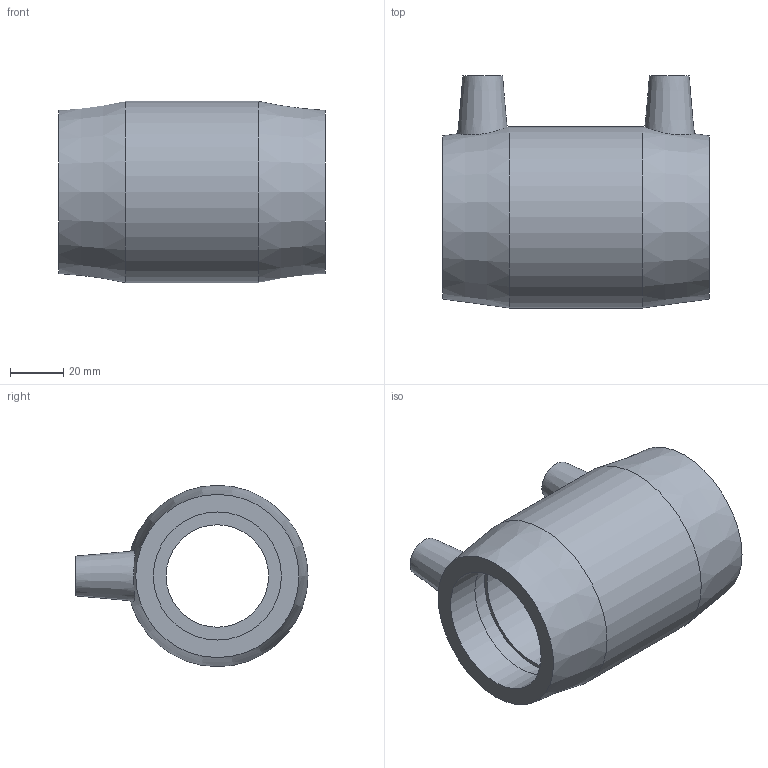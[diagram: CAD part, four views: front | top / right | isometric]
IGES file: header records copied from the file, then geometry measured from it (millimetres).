
Global section: file name: 5901B004015.ipt; native system: Autodesk Inventor 2019; preprocessor: unknown; author: KIM; date: 20210830.100910; units: inch
Bounding box: 100.08 x 87.12 x 68.07 mm (x, y, z)
Volume: 172722.4 mm3; surface area: 43281.6 mm2
Topology: 1 solids, 1 shells, 28 faces, 64 edges, 46 vertices
Faces by surface type: plane 12, revolution 9, cone 4, cylinder 3
Full cylindrical faces by diameter (mm): 4 x2, 68.072 x1
